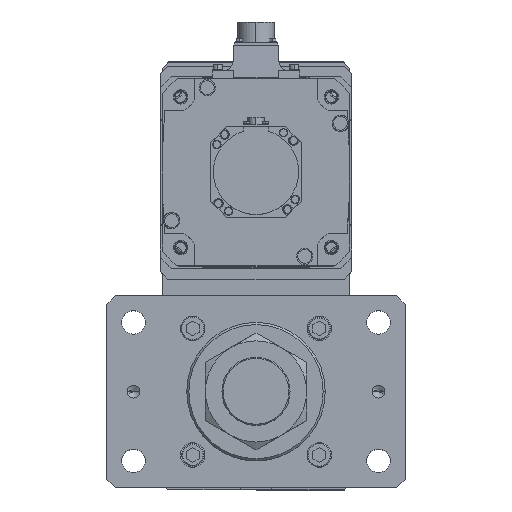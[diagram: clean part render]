
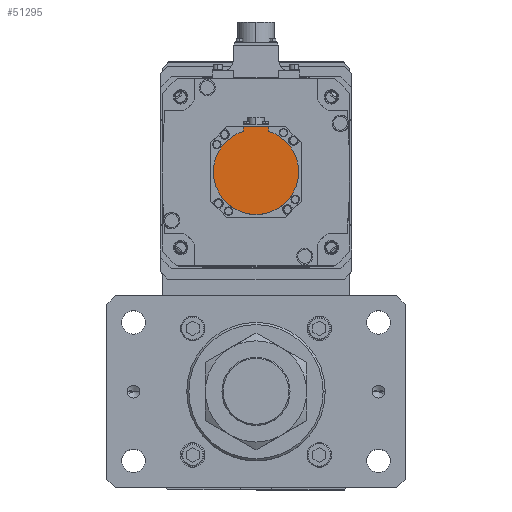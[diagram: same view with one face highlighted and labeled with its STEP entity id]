
A CAD part, top view. The second image highlights one B-rep face of the part: STEP entity #51295.
In plain terms, the highlighted planar face has unit normal (0, 0, 1) as drawn and (0, 0, -1) by its records, which use the part's own axes.
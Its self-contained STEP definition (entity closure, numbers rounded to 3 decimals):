
#2111 = CARTESIAN_POINT ( 'NONE',  ( -12., -42.5, -178.5 ) ) ;
#2579 = DIRECTION ( 'NONE',  ( -1., 0., 0. ) ) ;
#3093 = VERTEX_POINT ( 'NONE', #41509 ) ;
#3330 = CARTESIAN_POINT ( 'NONE',  ( 12., -42.5, -178.5 ) ) ;
#4042 = VERTEX_POINT ( 'NONE', #2111 ) ;
#4845 = CARTESIAN_POINT ( 'NONE',  ( -12., -40.329, -178.5 ) ) ;
#6141 = DIRECTION ( 'NONE',  ( 1., 0., 0. ) ) ;
#6204 = CARTESIAN_POINT ( 'NONE',  ( -40., 0., -178.5 ) ) ;
#7131 = VERTEX_POINT ( 'NONE', #3330 ) ;
#8016 = ORIENTED_EDGE ( 'NONE', *, *, #18290, .T. ) ;
#9800 = CARTESIAN_POINT ( 'NONE',  ( 40., 0., -178.5 ) ) ;
#10320 = VECTOR ( 'NONE', #29583, 1000. ) ;
#12163 = EDGE_CURVE ( 'NONE', #43080, #50911, #33750, .T. ) ;
#12264 = DIRECTION ( 'NONE',  ( 0., 0., 1. ) ) ;
#12806 = DIRECTION ( 'NONE',  ( 1., 0., 0. ) ) ;
#15667 = FACE_OUTER_BOUND ( 'NONE', #43882, .T. ) ;
#15827 = LINE ( 'NONE', #46532, #41890 ) ;
#16885 = DIRECTION ( 'NONE',  ( 1., 0., 0. ) ) ;
#18290 = EDGE_CURVE ( 'NONE', #4042, #3093, #27576, .T. ) ;
#19516 = ORIENTED_EDGE ( 'NONE', *, *, #12163, .F. ) ;
#21367 = PLANE ( 'NONE',  #32916 ) ;
#22335 = CARTESIAN_POINT ( 'NONE',  ( 0., -42.5, -178.5 ) ) ;
#24129 = ORIENTED_EDGE ( 'NONE', *, *, #39850, .F. ) ;
#24247 = VECTOR ( 'NONE', #2579, 1000. ) ;
#25616 = CIRCLE ( 'NONE', #36911, 40. ) ;
#27576 = LINE ( 'NONE', #4845, #10320 ) ;
#28300 = CARTESIAN_POINT ( 'NONE',  ( 0., 0., -178.5 ) ) ;
#28919 = CARTESIAN_POINT ( 'NONE',  ( 12., -38.158, -178.5 ) ) ;
#29201 = DIRECTION ( 'NONE',  ( 0., 0., 1. ) ) ;
#29583 = DIRECTION ( 'NONE',  ( 0., 1., 0. ) ) ;
#30562 = DIRECTION ( 'NONE',  ( 0., 0., 1. ) ) ;
#32916 = AXIS2_PLACEMENT_3D ( 'NONE', #41265, #29201, #16885 ) ;
#33713 = ORIENTED_EDGE ( 'NONE', *, *, #43807, .F. ) ;
#33750 = CIRCLE ( 'NONE', #49009, 40. ) ;
#33836 = VERTEX_POINT ( 'NONE', #6204 ) ;
#34805 = CARTESIAN_POINT ( 'NONE',  ( 0., 0., -178.5 ) ) ;
#35045 = LINE ( 'NONE', #22335, #24247 ) ;
#36429 = DIRECTION ( 'NONE',  ( 1., 0., 0. ) ) ;
#36911 = AXIS2_PLACEMENT_3D ( 'NONE', #34805, #30562, #6141 ) ;
#38209 = CIRCLE ( 'NONE', #41365, 40. ) ;
#39850 = EDGE_CURVE ( 'NONE', #33836, #3093, #25616, .T. ) ;
#40158 = CARTESIAN_POINT ( 'NONE',  ( 0., 0., -178.5 ) ) ;
#40895 = EDGE_CURVE ( 'NONE', #50911, #33836, #38209, .T. ) ;
#41265 = CARTESIAN_POINT ( 'NONE',  ( 0., -1.249, -178.5 ) ) ;
#41365 = AXIS2_PLACEMENT_3D ( 'NONE', #28300, #45121, #12806 ) ;
#41509 = CARTESIAN_POINT ( 'NONE',  ( -12., -38.158, -178.5 ) ) ;
#41890 = VECTOR ( 'NONE', #50947, 1000. ) ;
#43080 = VERTEX_POINT ( 'NONE', #28919 ) ;
#43807 = EDGE_CURVE ( 'NONE', #7131, #43080, #15827, .T. ) ;
#43882 = EDGE_LOOP ( 'NONE', ( #8016, #24129, #52663, #19516, #33713, #52302 ) ) ;
#45121 = DIRECTION ( 'NONE',  ( 0., 0., 1. ) ) ;
#46532 = CARTESIAN_POINT ( 'NONE',  ( 12., -1.249, -178.5 ) ) ;
#49009 = AXIS2_PLACEMENT_3D ( 'NONE', #40158, #12264, #36429 ) ;
#49991 = EDGE_CURVE ( 'NONE', #7131, #4042, #35045, .T. ) ;
#50911 = VERTEX_POINT ( 'NONE', #9800 ) ;
#50947 = DIRECTION ( 'NONE',  ( 0., 1., 0. ) ) ;
#51295 = ADVANCED_FACE ( 'NONE', ( #15667 ), #21367, .F. ) ;
#52302 = ORIENTED_EDGE ( 'NONE', *, *, #49991, .T. ) ;
#52663 = ORIENTED_EDGE ( 'NONE', *, *, #40895, .F. ) ;
